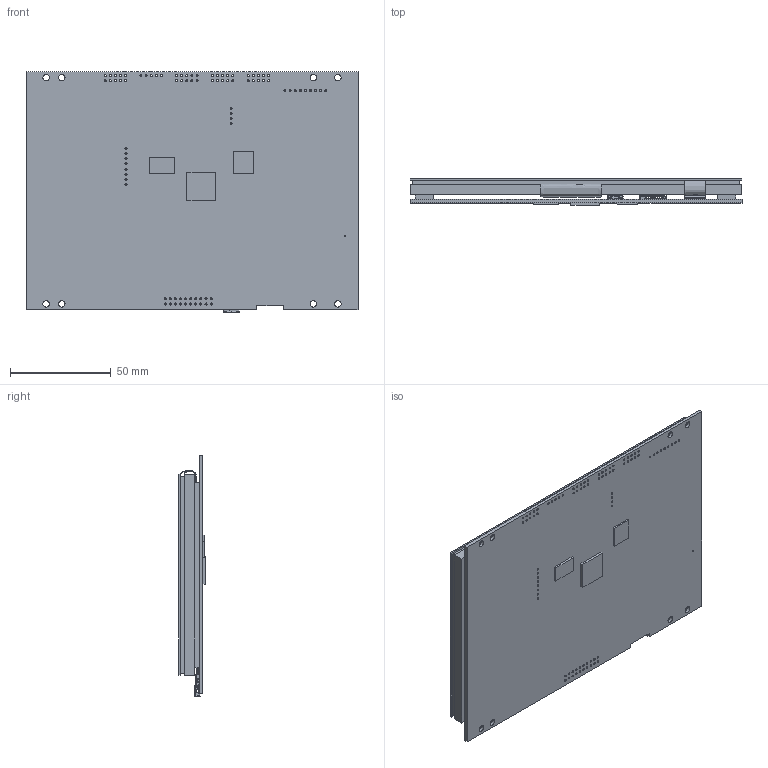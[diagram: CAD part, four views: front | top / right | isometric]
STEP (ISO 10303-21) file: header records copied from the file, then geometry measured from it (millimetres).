
FILE_DESCRIPTION((''),'2;1');
FILE_NAME('GT800X480A-E100P_ASM','2017-11-27T',('samx'),(''),'PRO/ENGINEER BY PARAMETRIC TECHNOLOGY CORPORATION, 2010280','PRO/ENGINEER BY PARAMETRIC TECHNOLOGY CORPORATION, 2010280','');
FILE_SCHEMA(('CONFIG_CONTROL_DESIGN'));
Length unit declared in the file: millimetre
Products named in the file (4): GT800X480A-E100P; SD_GT800; USB_MICRO_MOLEX; GT800X480A-E100P_ASM
Assembly tree (3 placements, depth 2):
  GT800X480A-E100P_ASM
    GT800X480A-E100P
    SD_GT800
    USB_MICRO_MOLEX
Bounding box: 165 x 13.3 x 119.75 mm (x, y, z)
Volume: 129284.2 mm3; surface area: 110072 mm2
Topology: 3 solids, 4 shells, 1226 faces, 3763 edges, 2659 vertices
Faces by surface type: plane 807, cylinder 405, cone 6, extrusion 4, sphere 4
Entity records: 42216 total; most frequent: CARTESIAN_POINT 7538, DIRECTION 7090, ORIENTED_EDGE 7040, EDGE_CURVE 3520, VECTOR 2888, LINE 2884, VERTEX_POINT 2317, AXIS2_PLACEMENT_3D 2101
